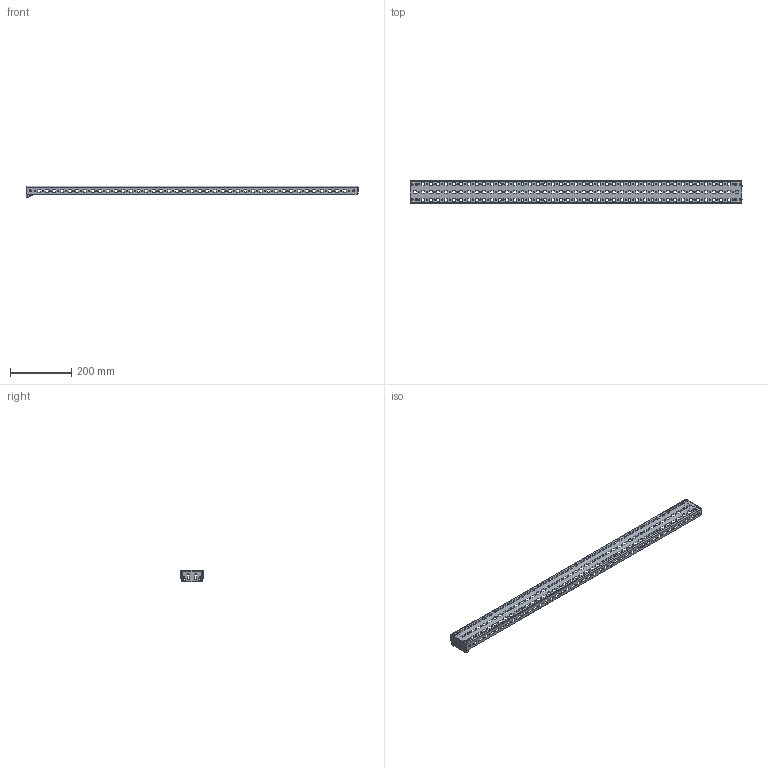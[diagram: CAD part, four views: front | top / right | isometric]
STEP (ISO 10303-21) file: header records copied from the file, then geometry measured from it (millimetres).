
FILE_DESCRIPTION(('STEP AP203'), '1');
FILE_NAME('MG 120.09 L Ðåéêà ìîíòàæíàÿ v2', '2021-05-20T07:51:11', ('UNSPECIFIED'), ('UNSPECIFIED'), 'ASCON STEP Converter 1.3', 'ASCON Math Kernel', '');
FILE_SCHEMA(('CONFIG_CONTROL_DESIGN'));
Length unit declared in the file: millimetre
Products named in the file (3): MG 120.09 L 01.001 Ðåéêà ìîíòàæíàÿ v2; MG 09 L 01.002 Êðîíøòåéí ðåéêè ìîíòàæíîé v2
Assembly tree (3 placements, depth 2):
  (unnamed)
    MG 120.09 L 01.001 Ðåéêà ìîíòàæíàÿ v2
    MG 09 L 01.002 Êðîíøòåéí ðåéêè ìîíòàæíîé v2  x2
Bounding box: 1085.55 x 74.15 x 39 mm (x, y, z)
Volume: 242547.6 mm3; surface area: 271346.3 mm2
Topology: 3 solids, 3 shells, 2040 faces, 6022 edges, 3988 vertices
Faces by surface type: cylinder 1114, plane 918, bspline 8
Full cylindrical faces by diameter (mm): 4.2 x234, 6 x4, 6.5 x12
Entity records: 84176 total; most frequent: CARTESIAN_POINT 12420, DIRECTION 11714, ORIENTED_EDGE 11240, EDGE_CURVE 5620, AXIS2_PLACEMENT_3D 4132, VERTEX_POINT 3888, LINE 3450, VECTOR 3450
